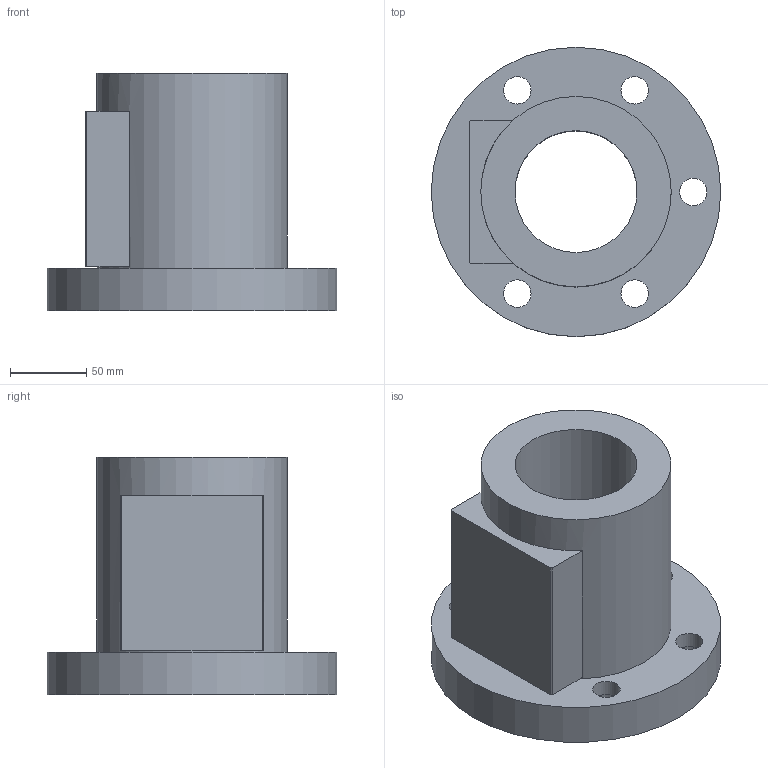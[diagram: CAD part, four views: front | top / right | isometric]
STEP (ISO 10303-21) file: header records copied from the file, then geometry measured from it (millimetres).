
FILE_DESCRIPTION(/* description */ (''),/* implementation_level */ '2;1');
FILE_NAME(/* name */ '80-16B2',/* time_stamp */ '2006-07-31T13:04:44+08:00',/* author */ (''),/* organization */ (''),/* preprocessor_version */ 'ST-DEVELOPER v9',/* originating_system */ 'UGS - NX 4.0',/* authorisation */ '');
FILE_SCHEMA (('CONFIG_CONTROL_DESIGN'));
Length unit declared in the file: millimetre
Products named in the file (1): 80-16B2
Bounding box: 190 x 190 x 156 mm (x, y, z)
Volume: 1655169 mm3; surface area: 167538.7 mm2
Topology: 1 solids, 1 shells, 28 faces, 61 edges, 42 vertices
Faces by surface type: plane 15, cylinder 13
Full cylindrical faces by diameter (mm): 18 x5, 26 x5, 80 x1, 125 x1, 190 x1
Entity records: 794 total; most frequent: DIRECTION 130, CARTESIAN_POINT 111, ORIENTED_EDGE 88, EDGE_LOOP 60, AXIS2_PLACEMENT_3D 57, FACE_BOUND 45, EDGE_CURVE 44, VERTEX_POINT 38
